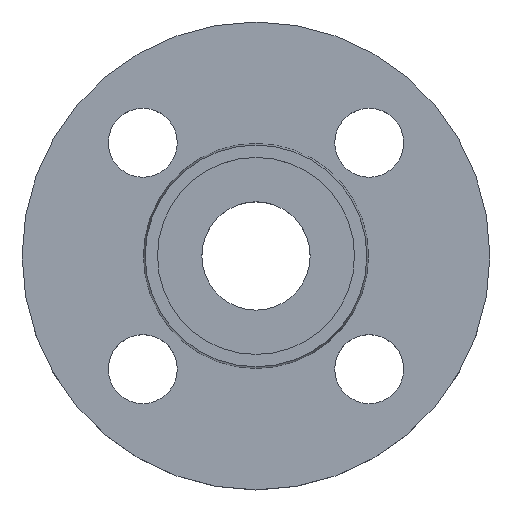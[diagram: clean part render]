
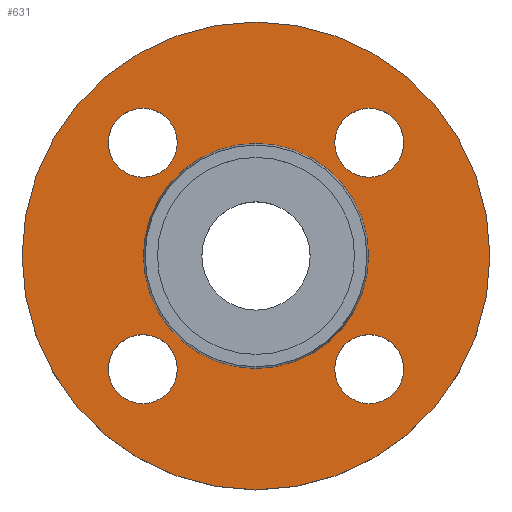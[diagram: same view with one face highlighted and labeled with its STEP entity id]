
A CAD part, top view. The second image highlights one B-rep face of the part: STEP entity #631.
In plain terms, the highlighted planar face has unit normal (0, 0, 1).
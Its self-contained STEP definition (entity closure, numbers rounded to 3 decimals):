
#1 = CIRCLE ( 'NONE', #4, 7. ) ;
#4 = AXIS2_PLACEMENT_3D ( 'NONE', #214, #221, #287 ) ;
#13 = AXIS2_PLACEMENT_3D ( 'NONE', #595, #286, #295 ) ;
#36 = DIRECTION ( 'NONE',  ( 1., 0., 0. ) ) ;
#39 = DIRECTION ( 'NONE',  ( 0., 0., 1. ) ) ;
#40 = CARTESIAN_POINT ( 'NONE',  ( 22.853, 0., -2. ) ) ;
#53 = CIRCLE ( 'NONE', #383, 22.853 ) ;
#55 = AXIS2_PLACEMENT_3D ( 'NONE', #60, #59, #56 ) ;
#56 = DIRECTION ( 'NONE',  ( -1., 0., 0. ) ) ;
#59 = DIRECTION ( 'NONE',  ( 0., 0., -1. ) ) ;
#60 = CARTESIAN_POINT ( 'NONE',  ( 0., 0., -2. ) ) ;
#67 = DIRECTION ( 'NONE',  ( -1., 0., 0. ) ) ;
#68 = DIRECTION ( 'NONE',  ( 0., 0., -1. ) ) ;
#70 = CARTESIAN_POINT ( 'NONE',  ( 0., 0., -2. ) ) ;
#87 = AXIS2_PLACEMENT_3D ( 'NONE', #771, #772, #773 ) ;
#111 = CARTESIAN_POINT ( 'NONE',  ( 29.981, 22.981, -2. ) ) ;
#115 = EDGE_CURVE ( 'NONE', #546, #566, #611, .T. ) ;
#120 = CARTESIAN_POINT ( 'NONE',  ( 15.981, -22.981, -2. ) ) ;
#140 = CIRCLE ( 'NONE', #144, 22.853 ) ;
#144 = AXIS2_PLACEMENT_3D ( 'NONE', #334, #335, #336 ) ;
#149 = EDGE_CURVE ( 'NONE', #461, #501, #639, .T. ) ;
#160 = PLANE ( 'NONE',  #290 ) ;
#161 = FACE_OUTER_BOUND ( 'NONE', #504, .T. ) ;
#163 = FACE_BOUND ( 'NONE', #558, .T. ) ;
#164 = FACE_BOUND ( 'NONE', #670, .T. ) ;
#165 = FACE_BOUND ( 'NONE', #469, .T. ) ;
#169 = FACE_BOUND ( 'NONE', #522, .T. ) ;
#170 = FACE_BOUND ( 'NONE', #512, .T. ) ;
#186 = CARTESIAN_POINT ( 'NONE',  ( 29.981, -22.981, -2. ) ) ;
#188 = CARTESIAN_POINT ( 'NONE',  ( -29.981, 22.981, -2. ) ) ;
#191 = EDGE_CURVE ( 'NONE', #467, #507, #318, .T. ) ;
#197 = AXIS2_PLACEMENT_3D ( 'NONE', #750, #751, #752 ) ;
#203 = CARTESIAN_POINT ( 'NONE',  ( -47.5, 0., -2. ) ) ;
#213 = DIRECTION ( 'NONE',  ( 1., 0., 0. ) ) ;
#214 = CARTESIAN_POINT ( 'NONE',  ( 22.981, -22.981, -2. ) ) ;
#218 = AXIS2_PLACEMENT_3D ( 'NONE', #356, #358, #361 ) ;
#221 = DIRECTION ( 'NONE',  ( 0., 0., -1. ) ) ;
#225 = EDGE_CURVE ( 'NONE', #589, #691, #372, .T. ) ;
#230 = CARTESIAN_POINT ( 'NONE',  ( -15.981, 22.981, -2. ) ) ;
#244 = CARTESIAN_POINT ( 'NONE',  ( -29.981, -22.981, -2. ) ) ;
#245 = CARTESIAN_POINT ( 'NONE',  ( 47.5, 0., -2. ) ) ;
#250 = CARTESIAN_POINT ( 'NONE',  ( -22.853, 0., -2. ) ) ;
#252 = DIRECTION ( 'NONE',  ( 0., 0., -1. ) ) ;
#255 = CIRCLE ( 'NONE', #218, 7. ) ;
#274 = AXIS2_PLACEMENT_3D ( 'NONE', #340, #341, #342 ) ;
#280 = CIRCLE ( 'NONE', #274, 7. ) ;
#286 = DIRECTION ( 'NONE',  ( 0., 0., -1. ) ) ;
#287 = DIRECTION ( 'NONE',  ( 1., 0., 0. ) ) ;
#290 = AXIS2_PLACEMENT_3D ( 'NONE', #40, #39, #36 ) ;
#295 = DIRECTION ( 'NONE',  ( 1., 0., 0. ) ) ;
#312 = CIRCLE ( 'NONE', #13, 7. ) ;
#318 = CIRCLE ( 'NONE', #197, 47.5 ) ;
#334 = CARTESIAN_POINT ( 'NONE',  ( 0., 0., -2. ) ) ;
#335 = DIRECTION ( 'NONE',  ( 0., 0., -1. ) ) ;
#336 = DIRECTION ( 'NONE',  ( -1., 0., 0. ) ) ;
#339 = AXIS2_PLACEMENT_3D ( 'NONE', #435, #252, #213 ) ;
#340 = CARTESIAN_POINT ( 'NONE',  ( 22.981, 22.981, -2. ) ) ;
#341 = DIRECTION ( 'NONE',  ( 0., 0., -1. ) ) ;
#342 = DIRECTION ( 'NONE',  ( 1., 0., 0. ) ) ;
#356 = CARTESIAN_POINT ( 'NONE',  ( -22.981, 22.981, -2. ) ) ;
#358 = DIRECTION ( 'NONE',  ( 0., 0., -1. ) ) ;
#361 = DIRECTION ( 'NONE',  ( 1., 0., 0. ) ) ;
#372 = CIRCLE ( 'NONE', #87, 7. ) ;
#383 = AXIS2_PLACEMENT_3D ( 'NONE', #70, #68, #67 ) ;
#385 = EDGE_CURVE ( 'NONE', #537, #505, #140, .T. ) ;
#391 = EDGE_CURVE ( 'NONE', #699, #464, #280, .T. ) ;
#398 = CIRCLE ( 'NONE', #339, 7. ) ;
#423 = EDGE_CURVE ( 'NONE', #566, #546, #255, .T. ) ;
#428 = CARTESIAN_POINT ( 'NONE',  ( -15.981, -22.981, -2. ) ) ;
#435 = CARTESIAN_POINT ( 'NONE',  ( -22.981, -22.981, -2. ) ) ;
#452 = AXIS2_PLACEMENT_3D ( 'NONE', #724, #725, #726 ) ;
#455 = CARTESIAN_POINT ( 'NONE',  ( 15.981, 22.981, -2. ) ) ;
#461 = VERTEX_POINT ( 'NONE', #428 ) ;
#464 = VERTEX_POINT ( 'NONE', #455 ) ;
#467 = VERTEX_POINT ( 'NONE', #203 ) ;
#469 = EDGE_LOOP ( 'NONE', ( #570, #573 ) ) ;
#495 = EDGE_CURVE ( 'NONE', #691, #589, #1, .T. ) ;
#501 = VERTEX_POINT ( 'NONE', #244 ) ;
#502 = EDGE_CURVE ( 'NONE', #501, #461, #398, .T. ) ;
#504 = EDGE_LOOP ( 'NONE', ( #579, #580 ) ) ;
#505 = VERTEX_POINT ( 'NONE', #250 ) ;
#507 = VERTEX_POINT ( 'NONE', #245 ) ;
#512 = EDGE_LOOP ( 'NONE', ( #561, #562 ) ) ;
#522 = EDGE_LOOP ( 'NONE', ( #567, #568 ) ) ;
#532 = EDGE_CURVE ( 'NONE', #464, #699, #312, .T. ) ;
#537 = VERTEX_POINT ( 'NONE', #694 ) ;
#546 = VERTEX_POINT ( 'NONE', #230 ) ;
#558 = EDGE_LOOP ( 'NONE', ( #576, #577 ) ) ;
#561 = ORIENTED_EDGE ( 'NONE', *, *, #225, .T. ) ;
#562 = ORIENTED_EDGE ( 'NONE', *, *, #495, .T. ) ;
#566 = VERTEX_POINT ( 'NONE', #188 ) ;
#567 = ORIENTED_EDGE ( 'NONE', *, *, #149, .T. ) ;
#568 = ORIENTED_EDGE ( 'NONE', *, *, #502, .T. ) ;
#570 = ORIENTED_EDGE ( 'NONE', *, *, #115, .T. ) ;
#573 = ORIENTED_EDGE ( 'NONE', *, *, #423, .T. ) ;
#574 = ORIENTED_EDGE ( 'NONE', *, *, #391, .T. ) ;
#575 = ORIENTED_EDGE ( 'NONE', *, *, #532, .T. ) ;
#576 = ORIENTED_EDGE ( 'NONE', *, *, #792, .T. ) ;
#577 = ORIENTED_EDGE ( 'NONE', *, *, #385, .T. ) ;
#579 = ORIENTED_EDGE ( 'NONE', *, *, #797, .F. ) ;
#580 = ORIENTED_EDGE ( 'NONE', *, *, #191, .F. ) ;
#588 = CIRCLE ( 'NONE', #55, 47.5 ) ;
#589 = VERTEX_POINT ( 'NONE', #186 ) ;
#595 = CARTESIAN_POINT ( 'NONE',  ( 22.981, 22.981, -2. ) ) ;
#608 = AXIS2_PLACEMENT_3D ( 'NONE', #734, #736, #737 ) ;
#611 = CIRCLE ( 'NONE', #452, 7. ) ;
#631 = ADVANCED_FACE ( 'NONE', ( #170, #169, #165, #164, #163, #161 ), #160, .T. ) ;
#639 = CIRCLE ( 'NONE', #608, 7. ) ;
#670 = EDGE_LOOP ( 'NONE', ( #574, #575 ) ) ;
#691 = VERTEX_POINT ( 'NONE', #120 ) ;
#694 = CARTESIAN_POINT ( 'NONE',  ( 22.853, 0., -2. ) ) ;
#699 = VERTEX_POINT ( 'NONE', #111 ) ;
#724 = CARTESIAN_POINT ( 'NONE',  ( -22.981, 22.981, -2. ) ) ;
#725 = DIRECTION ( 'NONE',  ( 0., 0., -1. ) ) ;
#726 = DIRECTION ( 'NONE',  ( 1., 0., 0. ) ) ;
#734 = CARTESIAN_POINT ( 'NONE',  ( -22.981, -22.981, -2. ) ) ;
#736 = DIRECTION ( 'NONE',  ( 0., 0., -1. ) ) ;
#737 = DIRECTION ( 'NONE',  ( 1., 0., 0. ) ) ;
#750 = CARTESIAN_POINT ( 'NONE',  ( 0., 0., -2. ) ) ;
#751 = DIRECTION ( 'NONE',  ( 0., 0., -1. ) ) ;
#752 = DIRECTION ( 'NONE',  ( -1., 0., 0. ) ) ;
#771 = CARTESIAN_POINT ( 'NONE',  ( 22.981, -22.981, -2. ) ) ;
#772 = DIRECTION ( 'NONE',  ( 0., 0., -1. ) ) ;
#773 = DIRECTION ( 'NONE',  ( 1., 0., 0. ) ) ;
#792 = EDGE_CURVE ( 'NONE', #505, #537, #53, .T. ) ;
#797 = EDGE_CURVE ( 'NONE', #507, #467, #588, .T. ) ;
